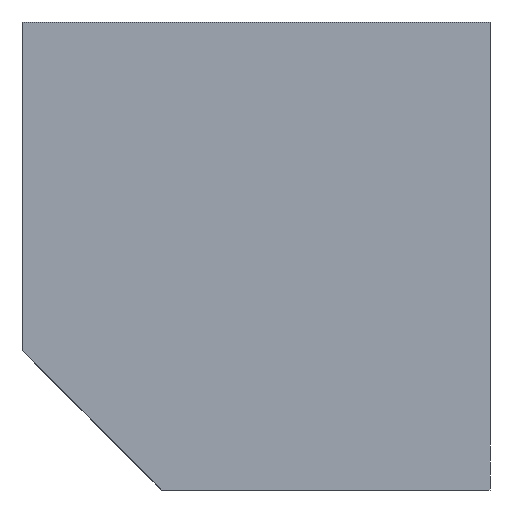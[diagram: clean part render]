
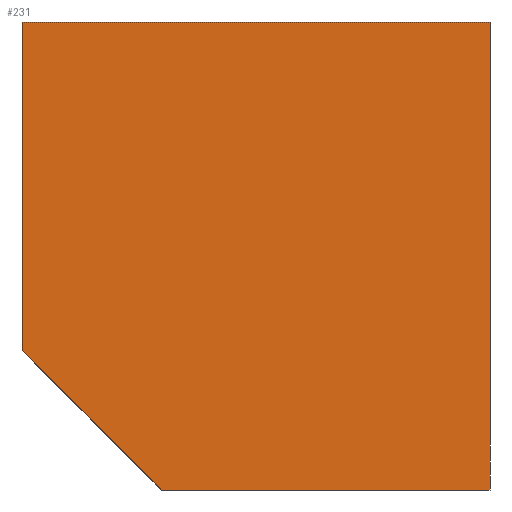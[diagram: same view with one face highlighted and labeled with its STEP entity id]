
A CAD part, front view. The second image highlights one B-rep face of the part: STEP entity #231.
In plain terms, the highlighted planar face has unit normal (0, -1, 0).
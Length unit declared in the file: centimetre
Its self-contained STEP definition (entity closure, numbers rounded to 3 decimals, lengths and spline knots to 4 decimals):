
#2 = CARTESIAN_POINT ( 'NONE',  ( 297.4646, 0., 0. ) ) ;
#13 = DIRECTION ( 'NONE',  ( 1., 0., 0. ) ) ;
#19 = LINE ( 'NONE', #156, #401 ) ;
#25 = CARTESIAN_POINT ( 'NONE',  ( 0., 0., 297.4646 ) ) ;
#34 = VERTEX_POINT ( 'NONE', #497 ) ;
#49 = VECTOR ( 'NONE', #527, 100. ) ;
#50 = VECTOR ( 'NONE', #355, 100. ) ;
#71 = CARTESIAN_POINT ( 'NONE',  ( 1000., 0., 1000. ) ) ;
#73 = DIRECTION ( 'NONE',  ( 0.707, 0., -0.707 ) ) ;
#82 = LINE ( 'NONE', #71, #49 ) ;
#85 = EDGE_CURVE ( 'NONE', #34, #175, #19, .T. ) ;
#95 = DIRECTION ( 'NONE',  ( 1., 0., 0. ) ) ;
#100 = AXIS2_PLACEMENT_3D ( 'NONE', #292, #469, #248 ) ;
#126 = EDGE_CURVE ( 'NONE', #175, #255, #82, .T. ) ;
#128 = ORIENTED_EDGE ( 'NONE', *, *, #536, .T. ) ;
#137 = LINE ( 'NONE', #143, #50 ) ;
#143 = CARTESIAN_POINT ( 'NONE',  ( 0., 0., 1000. ) ) ;
#155 = LINE ( 'NONE', #515, #382 ) ;
#156 = CARTESIAN_POINT ( 'NONE',  ( 0., 0., 1000. ) ) ;
#167 = EDGE_LOOP ( 'NONE', ( #128, #252, #563, #432, #388 ) ) ;
#175 = VERTEX_POINT ( 'NONE', #251 ) ;
#178 = CARTESIAN_POINT ( 'NONE',  ( 1000., 0., 0. ) ) ;
#204 = LINE ( 'NONE', #25, #524 ) ;
#215 = PLANE ( 'NONE',  #100 ) ;
#231 = ADVANCED_FACE ( 'NONE', ( #341 ), #215, .F. ) ;
#248 = DIRECTION ( 'NONE',  ( 0., 0., 1. ) ) ;
#251 = CARTESIAN_POINT ( 'NONE',  ( 1000., 0., 1000. ) ) ;
#252 = ORIENTED_EDGE ( 'NONE', *, *, #361, .T. ) ;
#255 = VERTEX_POINT ( 'NONE', #178 ) ;
#266 = VERTEX_POINT ( 'NONE', #396 ) ;
#292 = CARTESIAN_POINT ( 'NONE',  ( 0., 0., 1000. ) ) ;
#341 = FACE_OUTER_BOUND ( 'NONE', #167, .T. ) ;
#342 = VERTEX_POINT ( 'NONE', #2 ) ;
#355 = DIRECTION ( 'NONE',  ( 0., 0., -1. ) ) ;
#361 = EDGE_CURVE ( 'NONE', #266, #342, #204, .T. ) ;
#382 = VECTOR ( 'NONE', #13, 100. ) ;
#388 = ORIENTED_EDGE ( 'NONE', *, *, #85, .F. ) ;
#396 = CARTESIAN_POINT ( 'NONE',  ( 0., 0., 297.4646 ) ) ;
#401 = VECTOR ( 'NONE', #95, 100. ) ;
#426 = EDGE_CURVE ( 'NONE', #342, #255, #155, .T. ) ;
#432 = ORIENTED_EDGE ( 'NONE', *, *, #126, .F. ) ;
#469 = DIRECTION ( 'NONE',  ( 0., 1., 0. ) ) ;
#497 = CARTESIAN_POINT ( 'NONE',  ( 0., 0., 1000. ) ) ;
#515 = CARTESIAN_POINT ( 'NONE',  ( 0., 0., 0. ) ) ;
#524 = VECTOR ( 'NONE', #73, 100. ) ;
#527 = DIRECTION ( 'NONE',  ( 0., 0., -1. ) ) ;
#536 = EDGE_CURVE ( 'NONE', #34, #266, #137, .T. ) ;
#563 = ORIENTED_EDGE ( 'NONE', *, *, #426, .T. ) ;
